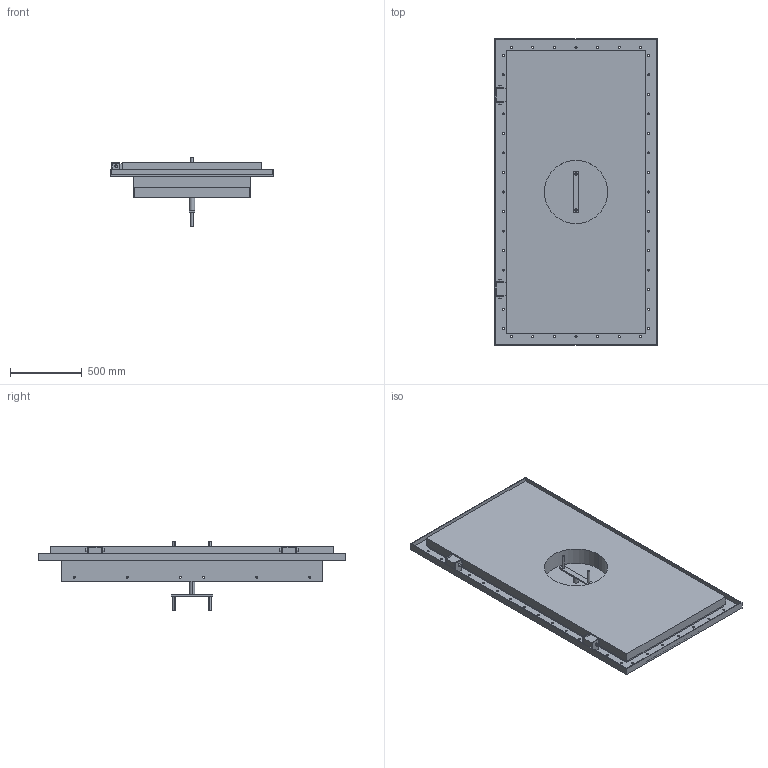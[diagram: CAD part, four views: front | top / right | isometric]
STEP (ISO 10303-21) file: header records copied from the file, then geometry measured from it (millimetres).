
FILE_DESCRIPTION((''),'2;1');
FILE_NAME('52056509','2022-11-08T10:20:36',('ka'),('HUBER SE'),'CREO PARAMETRIC BY PTC INC, 2022162','CREO PARAMETRIC BY PTC INC, 2022162','');
FILE_SCHEMA(('AUTOMOTIVE_DESIGN { 1 0 10303 214 1 1 1 1 }'));
Length unit declared in the file: millimetre
Products named in the file (1): 52056509
Bounding box: 1132 x 2132 x 480 mm (x, y, z)
Volume: 291951348.9 mm3; surface area: 7457205.8 mm2
Topology: 1 solids, 1 shells, 222 faces, 606 edges, 396 vertices
Faces by surface type: cylinder 134, plane 88
Entity records: 8420 total; most frequent: DIRECTION 1318, CARTESIAN_POINT 1226, ORIENTED_EDGE 1212, EDGE_CURVE 606, AXIS2_PLACEMENT_3D 490, VERTEX_POINT 396, EDGE_LOOP 352, VECTOR 338
